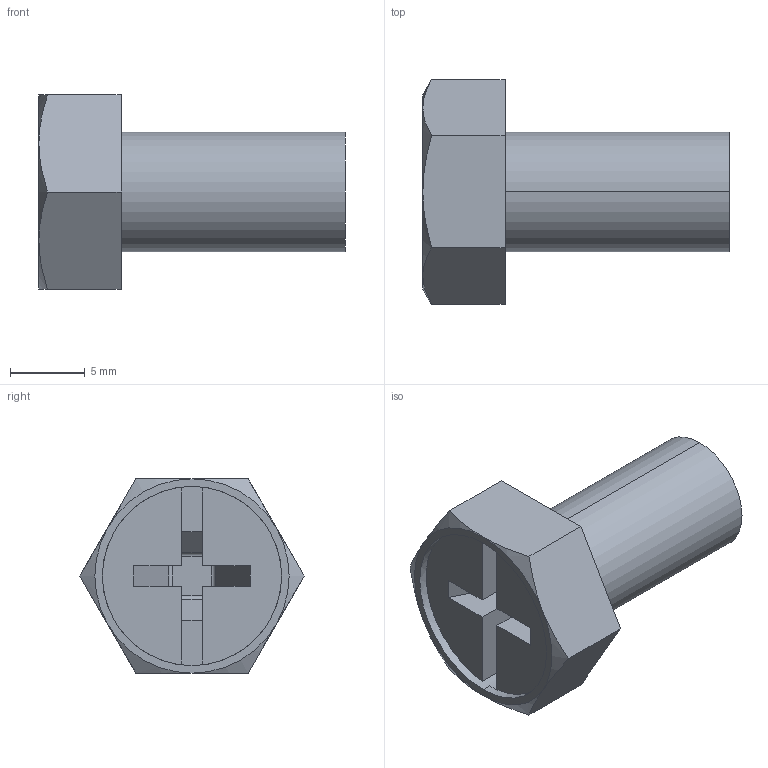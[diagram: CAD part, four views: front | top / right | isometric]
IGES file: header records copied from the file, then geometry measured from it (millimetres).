
Start section:  PTC IGES file: EB-951-8M15.igs
Global section: file name: EB-951-8M15.igs; native system: Creo Parametric by Parametric Technology Corporation; preprocessor: 2012360; author: xeon_3; organization: Unknown; date: 20131224.131407; units: millimetre
Bounding box: 20.5 x 15.01 x 13 mm (x, y, z)
Volume: 1411 mm3; surface area: 1049.1 mm2
Topology: 1 solids, 1 shells, 40 faces, 102 edges, 66 vertices
Faces by surface type: bspline 26, revolution 14
